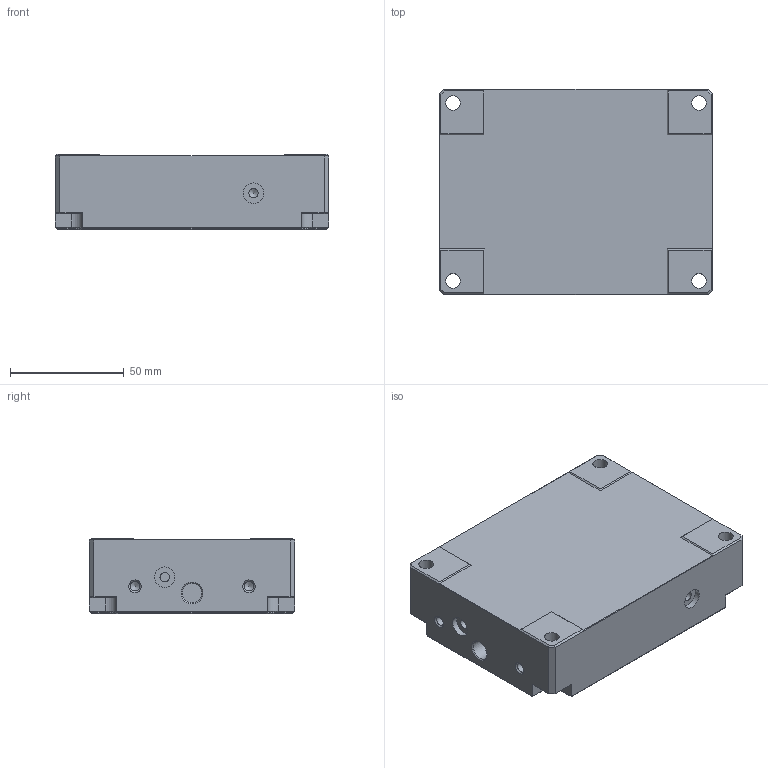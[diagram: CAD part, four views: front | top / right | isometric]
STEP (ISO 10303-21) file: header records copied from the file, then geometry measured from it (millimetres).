
FILE_DESCRIPTION(/* description */ ('Assieme'),/* implementation_level */ '2;1');
FILE_NAME(/* name */ 'C:\VAULT\ARCHIVIO\MAGER\PATTINI\CARTELLA COSTRUZIONE PATTINI HRA\HRA2010\WF10101H3300_AIRPAD HRA-2010FTN.stp',/* time_stamp */ '2021-02-22T11:03:58+01:00',/* author */ ('Roberto Cucit'),/* organization */ (''),/* preprocessor_version */ 'ST-DEVELOPER v17',/* originating_system */ 'Autodesk Inventor 2018',/* authorisation */ '');
FILE_SCHEMA (('AUTOMOTIVE_DESIGN { 1 0 10303 214 3 1 1 }'));
Length unit declared in the file: millimetre
Products named in the file (2): WF10101H3300_AIRPAD HRA-2010FT; WLP0100H33000_AIRPAD HRA-2010FT_corpo
Assembly tree (1 placements, depth 2):
  WF10101H3300_AIRPAD HRA-2010FT
    WLP0100H33000_AIRPAD HRA-2010FT_corpo
Bounding box: 120 x 90 x 33 mm (x, y, z)
Volume: 338193.9 mm3; surface area: 39844.9 mm2
Topology: 1 solids, 1 shells, 156 faces, 390 edges, 246 vertices
Faces by surface type: plane 100, cylinder 30, cone 26
Full cylindrical faces by diameter (mm): 4.134 x8, 6.4 x4, 8.566 x6, 9 x4
Entity records: 4677 total; most frequent: DIRECTION 814, CARTESIAN_POINT 787, ORIENTED_EDGE 764, EDGE_CURVE 382, AXIS2_PLACEMENT_3D 273, LINE 268, VECTOR 268, VERTEX_POINT 246
